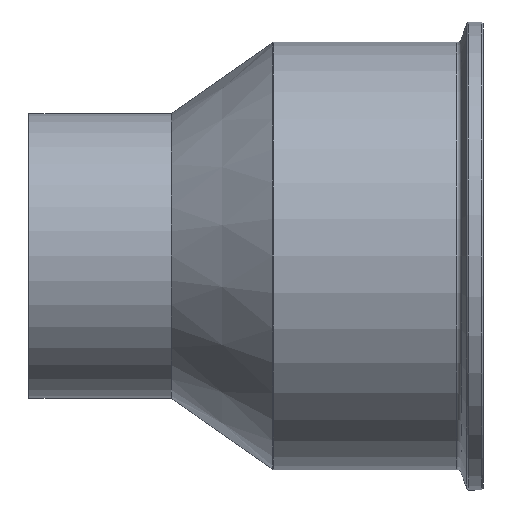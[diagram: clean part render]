
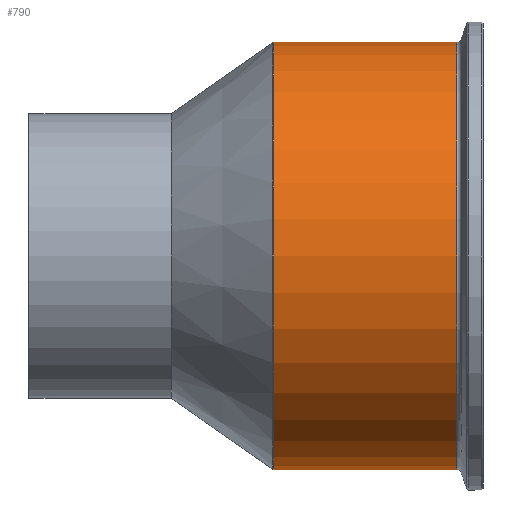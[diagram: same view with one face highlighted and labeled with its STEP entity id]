
A CAD part, front view. The second image highlights one B-rep face of the part: STEP entity #790.
In plain terms, the highlighted cylindrical face has radius 76.2 mm (diameter 152.4 mm), a partial arc.
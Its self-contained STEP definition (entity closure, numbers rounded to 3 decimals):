
#2 = CARTESIAN_POINT ( 'NONE',  ( -12.994, 0., -76.2 ) ) ;
#45 = CIRCLE ( 'NONE', #949, 76.2 ) ;
#130 = LINE ( 'NONE', #2, #540 ) ;
#138 = VERTEX_POINT ( 'NONE', #596 ) ;
#142 = AXIS2_PLACEMENT_3D ( 'NONE', #719, #703, #657 ) ;
#169 = VECTOR ( 'NONE', #874, 1000. ) ;
#321 = EDGE_CURVE ( 'NONE', #810, #138, #130, .T. ) ;
#332 = EDGE_LOOP ( 'NONE', ( #562, #986, #1047, #774 ) ) ;
#347 = CARTESIAN_POINT ( 'NONE',  ( 152.586, 0., -76.2 ) ) ;
#379 = EDGE_CURVE ( 'NONE', #459, #138, #45, .T. ) ;
#411 = LINE ( 'NONE', #958, #169 ) ;
#436 = EDGE_CURVE ( 'NONE', #810, #838, #880, .T. ) ;
#459 = VERTEX_POINT ( 'NONE', #893 ) ;
#481 = EDGE_CURVE ( 'NONE', #838, #459, #411, .T. ) ;
#524 = DIRECTION ( 'NONE',  ( 0., 0., 1. ) ) ;
#540 = VECTOR ( 'NONE', #1004, 1000. ) ;
#562 = ORIENTED_EDGE ( 'NONE', *, *, #321, .F. ) ;
#596 = CARTESIAN_POINT ( 'NONE',  ( 87.323, 0., -76.2 ) ) ;
#657 = DIRECTION ( 'NONE',  ( 0., 0., 1. ) ) ;
#703 = DIRECTION ( 'NONE',  ( -1., 0., 0. ) ) ;
#719 = CARTESIAN_POINT ( 'NONE',  ( 152.586, 0., 0. ) ) ;
#774 = ORIENTED_EDGE ( 'NONE', *, *, #379, .T. ) ;
#790 = ADVANCED_FACE ( 'NONE', ( #868 ), #996, .T. ) ;
#810 = VERTEX_POINT ( 'NONE', #347 ) ;
#838 = VERTEX_POINT ( 'NONE', #850 ) ;
#850 = CARTESIAN_POINT ( 'NONE',  ( 152.586, 0., 76.2 ) ) ;
#868 = FACE_OUTER_BOUND ( 'NONE', #332, .T. ) ;
#874 = DIRECTION ( 'NONE',  ( -1., 0., 0. ) ) ;
#880 = CIRCLE ( 'NONE', #142, 76.2 ) ;
#882 = DIRECTION ( 'NONE',  ( 0., 0., 1. ) ) ;
#888 = DIRECTION ( 'NONE',  ( 1., 0., 0. ) ) ;
#893 = CARTESIAN_POINT ( 'NONE',  ( 87.323, 0., 76.2 ) ) ;
#949 = AXIS2_PLACEMENT_3D ( 'NONE', #967, #888, #882 ) ;
#958 = CARTESIAN_POINT ( 'NONE',  ( -12.994, 0., 76.2 ) ) ;
#967 = CARTESIAN_POINT ( 'NONE',  ( 87.323, 0., 0. ) ) ;
#986 = ORIENTED_EDGE ( 'NONE', *, *, #436, .T. ) ;
#996 = CYLINDRICAL_SURFACE ( 'NONE', #1083, 76.2 ) ;
#1004 = DIRECTION ( 'NONE',  ( -1., 0., 0. ) ) ;
#1024 = CARTESIAN_POINT ( 'NONE',  ( -12.994, 0., 0. ) ) ;
#1047 = ORIENTED_EDGE ( 'NONE', *, *, #481, .T. ) ;
#1083 = AXIS2_PLACEMENT_3D ( 'NONE', #1024, #1104, #524 ) ;
#1104 = DIRECTION ( 'NONE',  ( -1., 0., 0. ) ) ;
